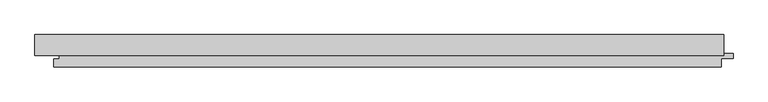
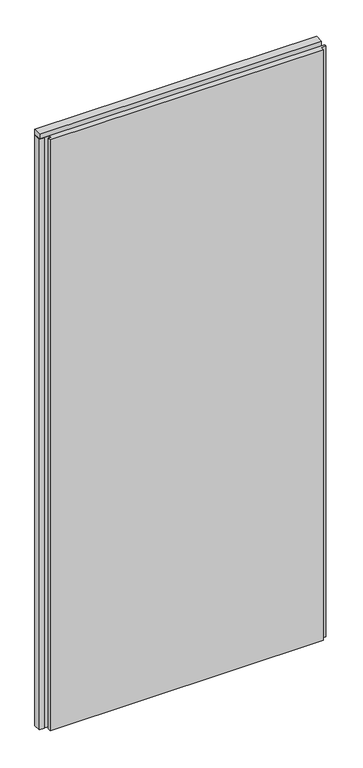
"""IFC4 building model written with IfcOpenShell, lengths in millimetres: plate geometry, Trimo_Qbiss Screen_Normal Panel-VERTICAL : HR - FB-F."""

from ifc_helpers import new_model, si_unit, frame, origin, place, context, project, spatial, polyline, outline, extrude, source, transform, mapped, element, save


def plate_e3b225b6(model_context):
    return source(origin(), model_context, "Body", "SweptSolid", [
        extrude(outline(polyline([(-571.0, 97.0), (-571.0, 126.0), (-552.0, 126.0), (-552.0, 97.0), (-571.0, 97.0)])), frame((0.0, 0.0, 12.5), z_axis=(0.0, 0.0, 1.0), x_axis=(1.0, 0.0, 0.0)), (0.0, 0.0, 1.0), 2375.0),
        extrude(outline(polyline([(-571.0, 93.9), (-571.0, 126.0), (500.0, 126.0), (500.0, 93.9), (-571.0, 93.9)])), frame((0.0, 0.0, 2390.5), z_axis=(0.0, 0.0, 1.0), x_axis=(1.0, 0.0, 0.0)), (0.0, 0.0, 1.0), 19.0),
        extrude(outline(polyline([(496.0, 97.0), (514.5, 97.0), (514.5, 89.0), (496.0, 89.0), (496.0, 76.0), (-542.0, 76.0), (-542.0, 88.0), (-533.5, 88.0), (-533.5, 98.0), (-549.0, 98.0), (-549.0, 126.0), (496.0, 126.0), (496.0, 97.0)])), frame((0.0, 0.0, 12.5), z_axis=(0.0, 0.0, 1.0), x_axis=(1.0, 0.0, 0.0)), (0.0, 0.0, 1.0), 2375.0),
    ])


if __name__ == "__main__":
    model = new_model("IFC4")
    model_context = context("Model", 3, world=origin())
    ifc_project = project(units=[si_unit("LENGTHUNIT", "METRE", prefix="MILLI")], contexts=[model_context])
    site = spatial("IfcSite", under=ifc_project)
    building = spatial("IfcBuilding", under=site)
    placement = place(None, origin())
    plate_shape = plate_e3b225b6(model_context)
    element("IfcPlate", 1, ObjectType="Trimo_Qbiss Screen_Normal Panel-VERTICAL : HR - FB-F", at=placement, inside=building, context=model_context, shape_type="MappedRepresentation", body=[
        mapped(plate_shape, transform((0.0, 0.0, 0.0), x_axis=(1.0, 0.0, 0.0), y_axis=(0.0, 1.0, 0.0), z_axis=(0.0, 0.0, 1.0))),
    ])
    save(model, "model.ifc")
